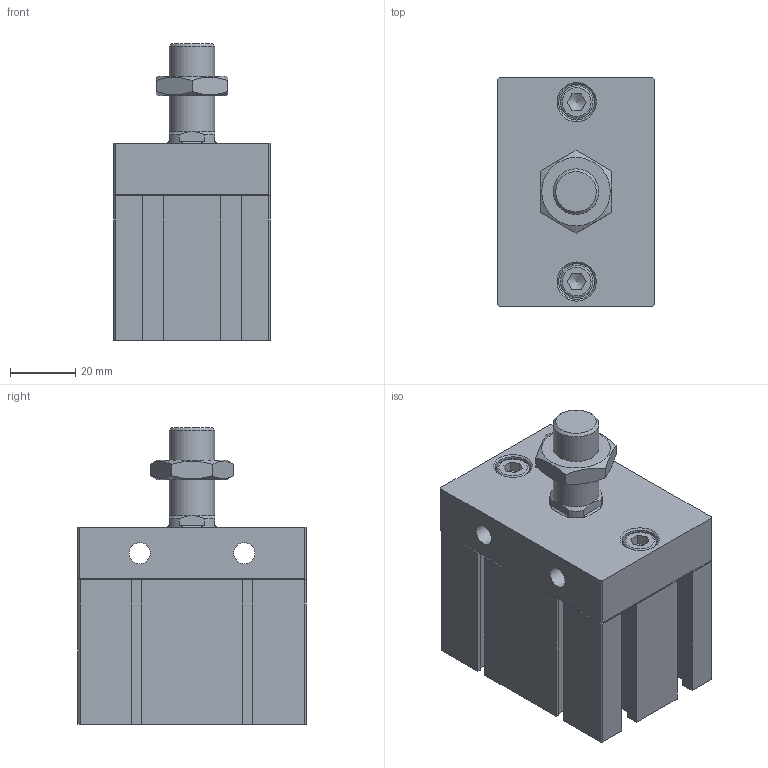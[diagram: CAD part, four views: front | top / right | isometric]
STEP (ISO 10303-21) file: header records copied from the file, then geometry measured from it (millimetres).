
FILE_DESCRIPTION((''),'2;1');
FILE_NAME('I:\3D電子目錄\氣缸\ND\ND\ND40-B\ND40x10-B.stp','2007-07-30T19:17:11',('Administrator'),(''),'Autodesk Inventor 11','Autodesk Inventor 11','');
FILE_SCHEMA(('AUTOMOTIVE_DESIGN { 1 0 10303 214 1 1 1 1 }'));
Length unit declared in the file: millimetre
Products named in the file (4): ND40-B; R 形環 42; ISO 4762 M6 x 20
Assembly tree (4 placements, depth 2):
  ND40-B
    ND40-B
    R 形環 42
    ISO 4762 M6 x 20  x2
Bounding box: 48 x 70.1 x 91 mm (x, y, z)
Volume: 185894.8 mm3; surface area: 37090.4 mm2
Topology: 5 solids, 5 shells, 207 faces, 501 edges, 321 vertices
Faces by surface type: plane 143, cylinder 27, cone 20, bspline 14, torus 3
Full cylindrical faces by diameter (mm): 1.9 x2, 2.2 x2, 6 x2, 6.5 x2, 10 x2, 11 x2, 14 x2, 29 x1, 42 x1, 44.5 x1
Entity records: 5567 total; most frequent: CARTESIAN_POINT 1155, DIRECTION 864, ORIENTED_EDGE 848, EDGE_CURVE 424, VECTOR 306, LINE 306, VERTEX_POINT 296, AXIS2_PLACEMENT_3D 279
